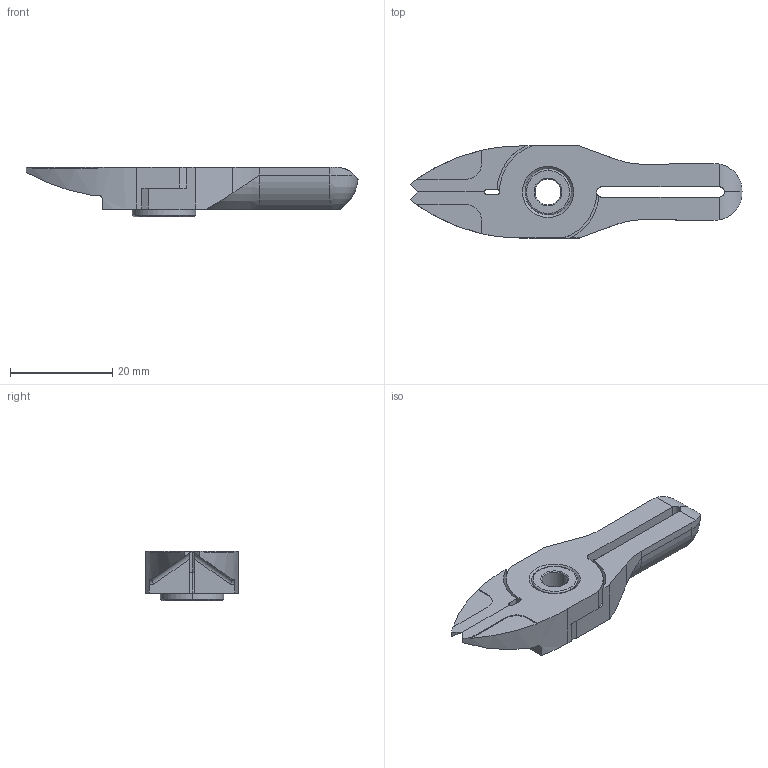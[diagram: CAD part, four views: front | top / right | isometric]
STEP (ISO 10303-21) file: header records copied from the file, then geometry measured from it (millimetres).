
FILE_DESCRIPTION (( 'STEP AP214' ), '1' );
FILE_NAME ('NY15RAJ.STEP', '2019-11-28T03:22:36', ( '微软用户' ), ( '微软中国' ), 'SwSTEP 2.0', 'SolidWorks 2016', '' );
FILE_SCHEMA (( 'AUTOMOTIVE_DESIGN' ));
Length unit declared in the file: millimetre
Products named in the file (1): NY15RAJ
Bounding box: 64.94 x 18 x 9.7 mm (x, y, z)
Surface area: 4638.8 mm2 (no closed solid volume)
Topology: 0 solids, 3 shells, 125 faces, 337 edges, 211 vertices
Faces by surface type: cylinder 52, plane 41, cone 22, torus 8, bspline 2
Entity records: 4259 total; most frequent: CARTESIAN_POINT 1080, DIRECTION 684, ORIENTED_EDGE 644, EDGE_CURVE 333, AXIS2_PLACEMENT_3D 260, VERTEX_POINT 211, VECTOR 164, LINE 164
